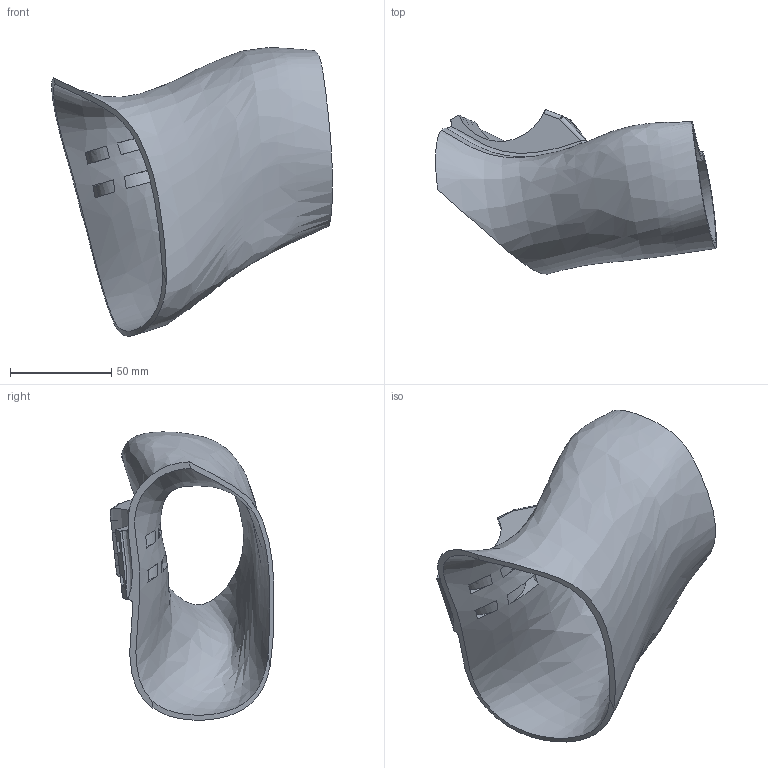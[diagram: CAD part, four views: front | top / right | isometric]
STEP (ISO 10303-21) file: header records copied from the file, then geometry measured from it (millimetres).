
FILE_DESCRIPTION(/* description */ ('STEP AP242','CAx-IF Rec.Pracs.---Representation and Presentation of Product Manufacturing Information (PMI)---4.0---2014-10-13','CAx-IF Rec.Pracs.---3D Tessellated Geometry---0.4---2014-09-14','2;1'),/* implementation_level */ '2;1');
FILE_NAME(/* name */ '65decda2c68ba23d61067079',/* time_stamp */ '2024-02-28T06:07:31Z',/* author */ (''),/* organization */ (''),/* preprocessor_version */ 'ST-DEVELOPER v19.4',/* originating_system */ ' ',/* authorisation */ ' ');
FILE_SCHEMA (('AP242_MANAGED_MODEL_BASED_3D_ENGINEERING_MIM_LF { 1 0 10303 442 1 1 4 }'));
Length unit declared in the file: metre
Products named in the file (1): Duct 2L
Bounding box: 139.02 x 81.13 x 142.59 mm (x, y, z)
Volume: 94008.6 mm3; surface area: 64806.4 mm2
Topology: 1 solids, 1 shells, 46 faces, 134 edges, 84 vertices
Faces by surface type: plane 23, bspline 17, cylinder 5, sphere 1
Entity records: 5195 total; most frequent: CARTESIAN_POINT 4188, ORIENTED_EDGE 252, DIRECTION 128, EDGE_CURVE 126, VERTEX_POINT 80, B_SPLINE_CURVE_WITH_KNOTS 68, EDGE_LOOP 52, FACE_BOUND 52
